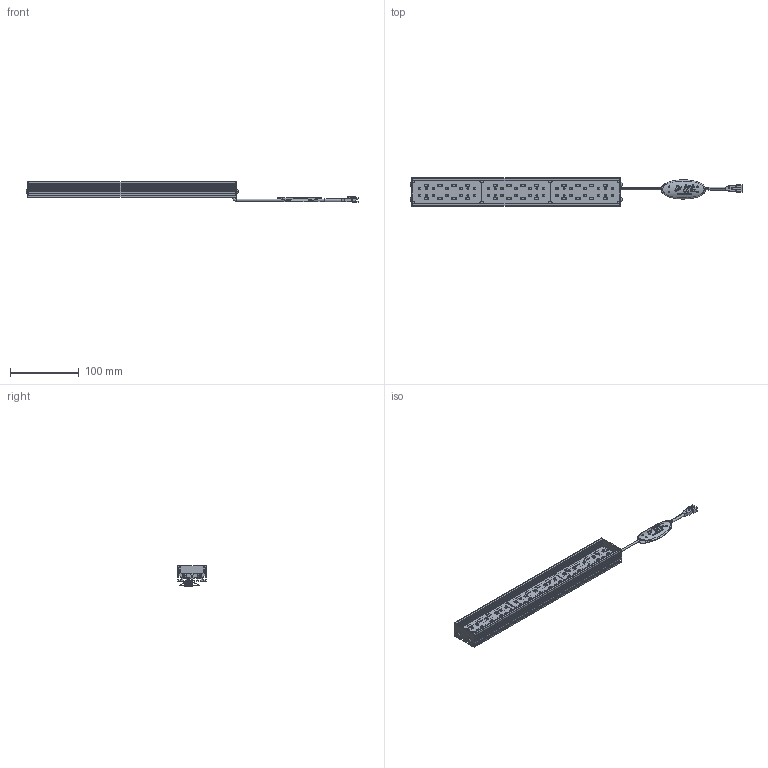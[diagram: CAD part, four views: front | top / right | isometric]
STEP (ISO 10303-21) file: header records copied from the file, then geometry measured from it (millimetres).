
FILE_DESCRIPTION (( 'STEP AP214' ), '1' );
FILE_NAME ('VBA-30030UV365_DRAWING_3D.STEP', '2024-07-08T07:51:33', ( '' ), ( '' ), 'SwSTEP 2.0', 'SolidWorks 2023', '' );
FILE_SCHEMA (( 'AUTOMOTIVE_DESIGN' ));
Length unit declared in the file: millimetre
Products named in the file (10): BASE_2.stp; 3P_G_2.stp; CABEL TAG (VS)_3.stp; VBA-30030UV365_DRAWING_3D; MXB8146_1.stp; VBA-30030UV365_DRAWING_3D.stp; SIDE PLATE_1_4.stp; MXB0164_3.stp; MXB8146_3.stp; PCB_3.stp
Assembly tree (25 placements, depth 3):
  VBA-30030UV365_DRAWING_3D
    VBA-30030UV365_DRAWING_3D.stp
      BASE_2.stp
      PCB_3.stp  x3
      MXB0164_3.stp  x12
      SIDE PLATE_1_4.stp  x2
      3P_G_2.stp
      MXB8146_3.stp  x2
      CABEL TAG (VS)_3.stp
      MXB8146_1.stp  x2
Bounding box: 482.2 x 41 x 30.5 mm (x, y, z)
Volume: 125220.5 mm3; surface area: 126000.3 mm2
Topology: 131 solids, 133 shells, 1987 faces, 5325 edges, 3612 vertices
Faces by surface type: plane 1360, cylinder 475, sphere 60, torus 54, cone 24, bspline 14
Entity records: 41199 total; most frequent: CARTESIAN_POINT 11836, ORIENTED_EDGE 6078, DIRECTION 5042, EDGE_CURVE 3039, VERTEX_POINT 2128, AXIS2_PLACEMENT_3D 1686, VECTOR 1670, LINE 1670
